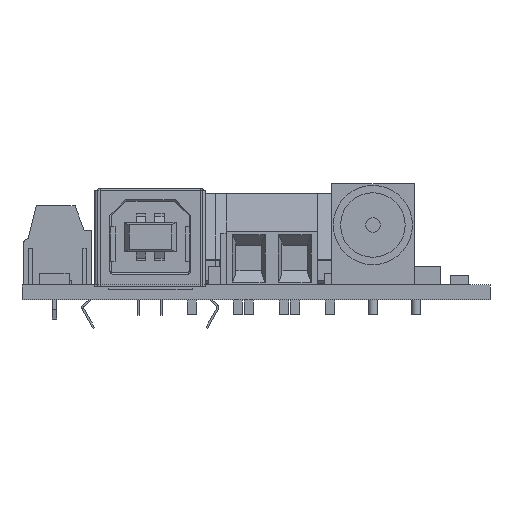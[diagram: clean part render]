
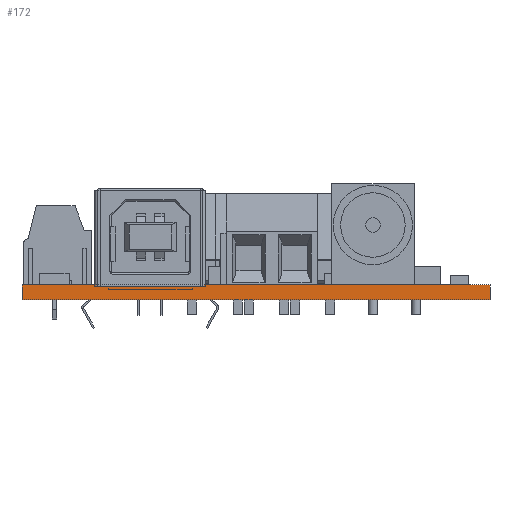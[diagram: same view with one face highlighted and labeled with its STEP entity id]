
A CAD part, front view. The second image highlights one B-rep face of the part: STEP entity #172.
In plain terms, the highlighted planar face has unit normal (0, -1, 0).
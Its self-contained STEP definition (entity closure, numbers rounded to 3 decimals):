
#172 = ADVANCED_FACE('',(#173),#187,.F.);
#173 = FACE_BOUND('',#174,.F.);
#174 = EDGE_LOOP('',(#175,#210,#238,#266));
#175 = ORIENTED_EDGE('',*,*,#176,.T.);
#176 = EDGE_CURVE('',#177,#179,#181,.T.);
#177 = VERTEX_POINT('',#178);
#178 = CARTESIAN_POINT('',(0.,0.,0.));
#179 = VERTEX_POINT('',#180);
#180 = CARTESIAN_POINT('',(0.,0.,1.6));
#181 = SURFACE_CURVE('',#182,(#186,#198),.PCURVE_S1.);
#182 = LINE('',#183,#184);
#183 = CARTESIAN_POINT('',(0.,0.,0.));
#184 = VECTOR('',#185,1.);
#185 = DIRECTION('',(0.,0.,1.));
#186 = PCURVE('',#187,#192);
#187 = PLANE('',#188);
#188 = AXIS2_PLACEMENT_3D('',#189,#190,#191);
#189 = CARTESIAN_POINT('',(0.,0.,0.));
#190 = DIRECTION('',(0.,1.,0.));
#191 = DIRECTION('',(1.,0.,0.));
#192 = DEFINITIONAL_REPRESENTATION('',(#193),#197);
#193 = LINE('',#194,#195);
#194 = CARTESIAN_POINT('',(0.,0.));
#195 = VECTOR('',#196,1.);
#196 = DIRECTION('',(0.,-1.));
#197 = ( GEOMETRIC_REPRESENTATION_CONTEXT(2) 
PARAMETRIC_REPRESENTATION_CONTEXT() REPRESENTATION_CONTEXT('2D SPACE',''
  ) );
#198 = PCURVE('',#199,#204);
#199 = PLANE('',#200);
#200 = AXIS2_PLACEMENT_3D('',#201,#202,#203);
#201 = CARTESIAN_POINT('',(0.,71.12,0.));
#202 = DIRECTION('',(1.,0.,0.));
#203 = DIRECTION('',(0.,-1.,0.));
#204 = DEFINITIONAL_REPRESENTATION('',(#205),#209);
#205 = LINE('',#206,#207);
#206 = CARTESIAN_POINT('',(71.12,0.));
#207 = VECTOR('',#208,1.);
#208 = DIRECTION('',(0.,-1.));
#209 = ( GEOMETRIC_REPRESENTATION_CONTEXT(2) 
PARAMETRIC_REPRESENTATION_CONTEXT() REPRESENTATION_CONTEXT('2D SPACE',''
  ) );
#210 = ORIENTED_EDGE('',*,*,#211,.T.);
#211 = EDGE_CURVE('',#179,#212,#214,.T.);
#212 = VERTEX_POINT('',#213);
#213 = CARTESIAN_POINT('',(50.8,0.,1.6));
#214 = SURFACE_CURVE('',#215,(#219,#226),.PCURVE_S1.);
#215 = LINE('',#216,#217);
#216 = CARTESIAN_POINT('',(0.,0.,1.6));
#217 = VECTOR('',#218,1.);
#218 = DIRECTION('',(1.,0.,0.));
#219 = PCURVE('',#187,#220);
#220 = DEFINITIONAL_REPRESENTATION('',(#221),#225);
#221 = LINE('',#222,#223);
#222 = CARTESIAN_POINT('',(0.,-1.6));
#223 = VECTOR('',#224,1.);
#224 = DIRECTION('',(1.,0.));
#225 = ( GEOMETRIC_REPRESENTATION_CONTEXT(2) 
PARAMETRIC_REPRESENTATION_CONTEXT() REPRESENTATION_CONTEXT('2D SPACE',''
  ) );
#226 = PCURVE('',#227,#232);
#227 = PLANE('',#228);
#228 = AXIS2_PLACEMENT_3D('',#229,#230,#231);
#229 = CARTESIAN_POINT('',(0.,0.,1.6));
#230 = DIRECTION('',(0.,0.,-1.));
#231 = DIRECTION('',(-1.,0.,0.));
#232 = DEFINITIONAL_REPRESENTATION('',(#233),#237);
#233 = LINE('',#234,#235);
#234 = CARTESIAN_POINT('',(0.,0.));
#235 = VECTOR('',#236,1.);
#236 = DIRECTION('',(-1.,0.));
#237 = ( GEOMETRIC_REPRESENTATION_CONTEXT(2) 
PARAMETRIC_REPRESENTATION_CONTEXT() REPRESENTATION_CONTEXT('2D SPACE',''
  ) );
#238 = ORIENTED_EDGE('',*,*,#239,.F.);
#239 = EDGE_CURVE('',#240,#212,#242,.T.);
#240 = VERTEX_POINT('',#241);
#241 = CARTESIAN_POINT('',(50.8,0.,0.));
#242 = SURFACE_CURVE('',#243,(#247,#254),.PCURVE_S1.);
#243 = LINE('',#244,#245);
#244 = CARTESIAN_POINT('',(50.8,0.,0.));
#245 = VECTOR('',#246,1.);
#246 = DIRECTION('',(0.,0.,1.));
#247 = PCURVE('',#187,#248);
#248 = DEFINITIONAL_REPRESENTATION('',(#249),#253);
#249 = LINE('',#250,#251);
#250 = CARTESIAN_POINT('',(50.8,0.));
#251 = VECTOR('',#252,1.);
#252 = DIRECTION('',(0.,-1.));
#253 = ( GEOMETRIC_REPRESENTATION_CONTEXT(2) 
PARAMETRIC_REPRESENTATION_CONTEXT() REPRESENTATION_CONTEXT('2D SPACE',''
  ) );
#254 = PCURVE('',#255,#260);
#255 = PLANE('',#256);
#256 = AXIS2_PLACEMENT_3D('',#257,#258,#259);
#257 = CARTESIAN_POINT('',(50.8,0.,0.));
#258 = DIRECTION('',(-1.,0.,0.));
#259 = DIRECTION('',(0.,1.,0.));
#260 = DEFINITIONAL_REPRESENTATION('',(#261),#265);
#261 = LINE('',#262,#263);
#262 = CARTESIAN_POINT('',(0.,0.));
#263 = VECTOR('',#264,1.);
#264 = DIRECTION('',(0.,-1.));
#265 = ( GEOMETRIC_REPRESENTATION_CONTEXT(2) 
PARAMETRIC_REPRESENTATION_CONTEXT() REPRESENTATION_CONTEXT('2D SPACE',''
  ) );
#266 = ORIENTED_EDGE('',*,*,#267,.F.);
#267 = EDGE_CURVE('',#177,#240,#268,.T.);
#268 = SURFACE_CURVE('',#269,(#273,#280),.PCURVE_S1.);
#269 = LINE('',#270,#271);
#270 = CARTESIAN_POINT('',(0.,0.,0.));
#271 = VECTOR('',#272,1.);
#272 = DIRECTION('',(1.,0.,0.));
#273 = PCURVE('',#187,#274);
#274 = DEFINITIONAL_REPRESENTATION('',(#275),#279);
#275 = LINE('',#276,#277);
#276 = CARTESIAN_POINT('',(0.,0.));
#277 = VECTOR('',#278,1.);
#278 = DIRECTION('',(1.,0.));
#279 = ( GEOMETRIC_REPRESENTATION_CONTEXT(2) 
PARAMETRIC_REPRESENTATION_CONTEXT() REPRESENTATION_CONTEXT('2D SPACE',''
  ) );
#280 = PCURVE('',#281,#286);
#281 = PLANE('',#282);
#282 = AXIS2_PLACEMENT_3D('',#283,#284,#285);
#283 = CARTESIAN_POINT('',(0.,0.,0.));
#284 = DIRECTION('',(0.,0.,-1.));
#285 = DIRECTION('',(-1.,0.,0.));
#286 = DEFINITIONAL_REPRESENTATION('',(#287),#291);
#287 = LINE('',#288,#289);
#288 = CARTESIAN_POINT('',(0.,0.));
#289 = VECTOR('',#290,1.);
#290 = DIRECTION('',(-1.,0.));
#291 = ( GEOMETRIC_REPRESENTATION_CONTEXT(2) 
PARAMETRIC_REPRESENTATION_CONTEXT() REPRESENTATION_CONTEXT('2D SPACE',''
  ) );
